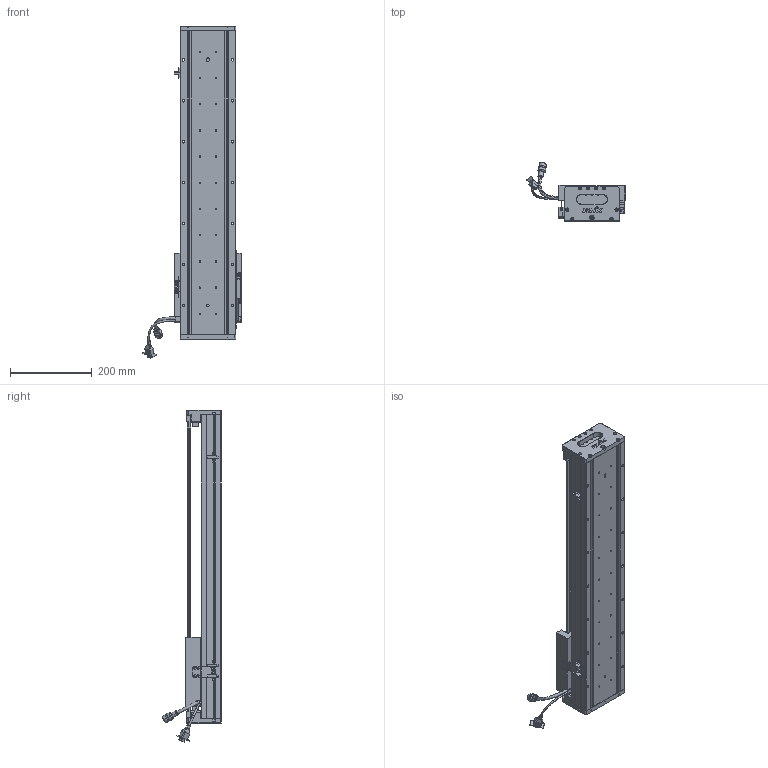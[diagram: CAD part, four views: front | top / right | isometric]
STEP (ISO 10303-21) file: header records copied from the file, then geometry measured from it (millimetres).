
FILE_DESCRIPTION (( 'STEP AP203' ), '1' );
FILE_NAME ('Z2-RY140D-1-L500-B-K.SLDASM_0500.step', '2021-05-17T07:44:58', ( '盈信电脑' ), ( '东莞市道滘镇水果街19号' ), 'SwSTEP 2.0', 'SolidWorks 2016', '' );
FILE_SCHEMA (( 'CONFIG_CONTROL_DESIGN' ));
Length unit declared in the file: millimetre
Products named in the file (36): SCALE-Part-2; 140蚥薯蝶輸; HARNESS-Part-2; HARNESS-Part-1; Z2-RY140圉猾敕臏賑輸(21遴); PSLH080_PSLF2; Z-RY140詩湍奻揤裔; HARNESS; 覜茼ん672; Z-RY140感应器672光电感应片; SEAL; COVER; Z2-RY140-L500直线电机模组底座_0500; SCALE-Part-1; SCREW-M1.7-1; SEAL-Part-1; PBU_SHEET; SHIELDPLATE; LABEL; SCREW-M1.7; Z2-RY140D-1-L500-B-K.SLDASM_0500; SCREW-M1.6-1; 080黍杅芛假蚾釱21遴; 榋妏寠巭燃_暯_M2_2; Z-140詩湍傷裔啣; SCREW-M1.6-2; 140-Z-臏賑輸盄裔(21遴); SCALE; HOLDER0; SCREW-M1.6; LABEL-Part-1; 140雄赽晤鎢ん堤盄; SCREW-M1.6-3; Z2-RY140-L500詩湍100mm遵_0500; Z-RY140詩湍狟揤裔; COVER-Part-1
Assembly tree (41 placements, depth 4):
  Z2-RY140D-1-L500-B-K.SLDASM_0500
    Z2-RY140-L500直线电机模组底座_0500
    Z-RY140感应器672光电感应片
    Z2-RY140圉猾敕臏賑輸(21遴)
    覜茼ん672  x3
    Z2-RY140-L500詩湍100mm遵_0500
    PSLH080_PSLF2
      SCALE
        SCALE-Part-1
        SCALE-Part-2
      HARNESS
        HARNESS-Part-1
        HARNESS-Part-2
      LABEL
        LABEL-Part-1
      COVER
        COVER-Part-1
      SEAL
        SEAL-Part-1
      榋妏寠巭燃_暯_M2_2
      SHIELDPLATE
      SCREW-M1.7
      SCREW-M1.7-1
      PBU_SHEET
      SCREW-M1.6
      SCREW-M1.6-1
      SCREW-M1.6-2
      SCREW-M1.6-3
      HOLDER0
    080黍杅芛假蚾釱21遴
    140-Z-臏賑輸盄裔(21遴)
    Z-140詩湍傷裔啣  x2
    Z-RY140詩湍狟揤裔  x2
    Z-RY140詩湍奻揤裔  x2
    140蚥薯蝶輸  x2
    140雄赽晤鎢ん堤盄
Bounding box: 239.84 x 143.77 x 810.88 mm (x, y, z)
Volume: 3104470.2 mm3; surface area: 814062.3 mm2
Topology: 36 solids, 36 shells, 2734 faces, 7146 edges, 4523 vertices
Faces by surface type: cylinder 1236, plane 1100, cone 266, torus 79, bspline 53
Entity records: 78414 total; most frequent: CARTESIAN_POINT 19183, DIRECTION 11570, ORIENTED_EDGE 11468, EDGE_CURVE 5734, AXIS2_PLACEMENT_3D 4246, VERTEX_POINT 3691, LINE 3078, VECTOR 3078
